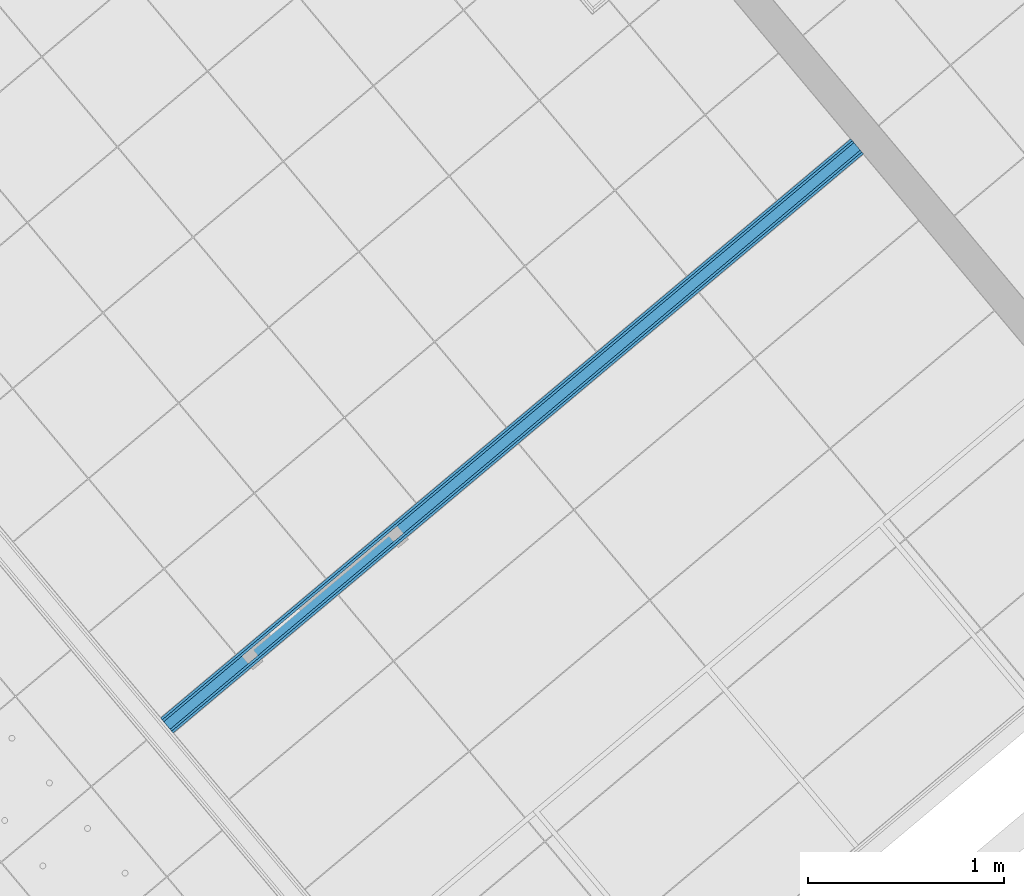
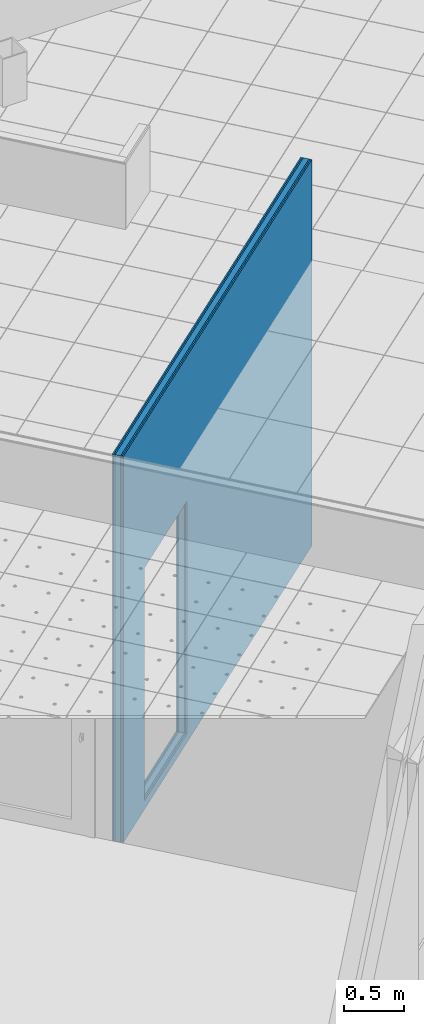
# One storey, part 21 of 321: 5 building element parts, 1 opening, 1 element without a shape of its own.
"""IFC2X3 building model written with IfcOpenShell, lengths in millimetres."""

from ifc_helpers import new_model, entity, si_unit, converted_unit, derived_unit, money_unit, direction, frame, origin_with_axes, place, context, subcontext, project, spatial, faceted_brep, material, type_object, element, aggregate, save


model = new_model("IFC2X3")

# Units and contexts
model_context = context("Model", 3, precision=0.01, world=origin_with_axes(), true_north=direction((0.0, 1.0)))
plan_context = context("Plan", 3, precision=0.01, world=origin_with_axes(), true_north=direction((0.0, 1.0)))
body_context = subcontext(model_context, "Body", "Model", "MODEL_VIEW")
ifc_project = project(units=[si_unit("LENGTHUNIT", "METRE", prefix="MILLI"), si_unit("AREAUNIT", "SQUARE_METRE"), si_unit("VOLUMEUNIT", "CUBIC_METRE"), converted_unit("PLANEANGLEUNIT", "DEGREE", entity("IfcPlaneAngleMeasure", 0.0174532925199), si_unit("PLANEANGLEUNIT", "RADIAN"), dimensions=[0, 0, 0, 0, 0, 0, 0]), money_unit("EUR"), converted_unit("TIMEUNIT", "Year", entity("IfcTimeMeasure", 31556926.0), si_unit("TIMEUNIT", "SECOND"), dimensions=[0, 0, 1, 0, 0, 0, 0]), si_unit("MASSUNIT", "GRAM", prefix="KILO"), si_unit("THERMODYNAMICTEMPERATUREUNIT", "DEGREE_CELSIUS"), si_unit("LUMINOUSINTENSITYUNIT", "LUMEN"), si_unit("ENERGYUNIT", "JOULE", prefix="MEGA"), derived_unit("THERMALCONDUCTANCEUNIT", [(si_unit("POWERUNIT", "WATT"), 1), (si_unit("LENGTHUNIT", "METRE"), -1), (si_unit("THERMODYNAMICTEMPERATUREUNIT", "KELVIN"), -1)]), derived_unit("SPECIFICHEATCAPACITYUNIT", [(si_unit("ENERGYUNIT", "JOULE"), 1), (si_unit("MASSUNIT", "GRAM", prefix="KILO"), -1), (si_unit("THERMODYNAMICTEMPERATUREUNIT", "KELVIN"), -1)]), derived_unit("MASSDENSITYUNIT", [(si_unit("MASSUNIT", "GRAM", prefix="KILO"), 1), (si_unit("VOLUMEUNIT", "CUBIC_METRE"), -1)])], contexts=[model_context, plan_context])

# Site, building, storey
site_placement = place(None, origin_with_axes())
site = spatial("IfcSite", under=ifc_project, at=site_placement, Name="Fortuinstraat Woensdrecht", CompositionType="ELEMENT")
building_placement = place(site_placement, origin_with_axes())
building = spatial("IfcBuilding", under=site, at=building_placement, Name="IKC Fortuna", CompositionType="ELEMENT")
storey_placement = place(building_placement, frame((0.0, 0.0, 4000.0), z_axis=(0.0, 0.0, 1.0), x_axis=(1.0, 0.0, 0.0)))
storey = spatial("IfcBuildingStorey", under=building, at=storey_placement, Name="01 eerste verdieping", CompositionType="ELEMENT", Elevation=4000.0)

# Wall, opening, building element parts
wall_type = type_object("IfcWallType", Name="MS100 2.50.2A 100", PredefinedType="NOTDEFINED")
wall_placement = place(storey_placement, frame((22275.8630568, -5825.1051172, 1360.0), z_axis=(0.0, 0.0, 1.0), x_axis=(0.766044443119, 0.642787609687, 0.0)))
wall = element("IfcWall", 1, at=wall_placement, inside=storey, type_object=wall_type, Name="22_Wand_Binnenwand")
opening_placement = place(wall_placement, frame((1098.80610878, 0.0, 90.0), z_axis=(0.0, 0.0, 1.0), x_axis=(1.0, 0.0, 0.0)))
element("IfcOpeningElement", 2, at=opening_placement, cuts=wall, Name="32_Deur_h.01d", context=body_context, shape_type="Brep", body=[
    faceted_brep([(517.0, -100.0, 2367.0), (517.0, -100.0, 0.0), (517.0, 200.0, 0.0), (517.0, 200.0, 2367.0), (-517.0, -100.0, 2367.0), (-517.0, -100.0, 0.0), (-517.0, 200.0, 0.0), (-517.0, 200.0, 2367.0)], [[[0, 1, 2, 3]], [[0, 4, 5, 1]], [[1, 5, 6, 2]], [[3, 2, 6, 7]], [[4, 0, 3, 7]], [[5, 4, 7, 6]]]),
])
ifc_material_1 = material(Name="Gipsplaat")
building_element_part_1_placement = place(wall_placement, origin_with_axes())
building_element_part_1 = element("IfcBuildingElementPart", 3, at=building_element_part_1_placement, material=ifc_material_1, Name="Gipsplaat", context=body_context, shape_type="Brep", body=[
    faceted_brep([(4655.01170342, 50.0, 0.0), (62.5, 50.0, 0.0), (62.5, 50.0, 3930.0), (4655.01170342, 50.0, 3930.0), (581.806108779, 50.0, 90.0), (1615.80610878, 50.0, 90.0), (1615.80610878, 50.0, 2457.0), (581.806108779, 50.0, 2457.0), (4655.01170342, 37.5, 0.0), (62.5, 37.5, 0.0), (62.5, 37.5, 3930.0), (4655.01170342, 37.5, 3930.0), (581.806108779, 37.5, 90.0), (1615.80610878, 37.5, 90.0), (1615.80610878, 37.5, 2457.0), (581.806108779, 37.5, 2457.0)], [[[0, 1, 2, 3], [4, 5, 6, 7]], [[8, 9, 1, 0]], [[2, 1, 9, 10]], [[3, 2, 10, 11]], [[8, 0, 3, 11]], [[12, 13, 5, 4]], [[13, 14, 6, 5]], [[14, 15, 7, 6]], [[15, 12, 4, 7]], [[11, 10, 9, 8], [12, 15, 14, 13]]]),
])
building_element_part_2_placement = place(wall_placement, origin_with_axes())
building_element_part_2 = element("IfcBuildingElementPart", 4, at=building_element_part_2_placement, material=ifc_material_1, Name="Gipsplaat", context=body_context, shape_type="Brep", body=[
    faceted_brep([(4655.01170342, 37.5, 0.0), (62.5, 37.5, 0.0), (62.5, 37.5, 3930.0), (4655.01170342, 37.5, 3930.0), (581.806108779, 37.5, 90.0), (1615.80610878, 37.5, 90.0), (1615.80610878, 37.5, 2457.0), (581.806108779, 37.5, 2457.0), (4655.01170342, 25.0, 0.0), (62.5, 25.0, 0.0), (62.5, 25.0, 3930.0), (4655.01170342, 25.0, 3930.0), (581.806108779, 25.0, 90.0), (1615.80610878, 25.0, 90.0), (1615.80610878, 25.0, 2457.0), (581.806108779, 25.0, 2457.0)], [[[0, 1, 2, 3], [4, 5, 6, 7]], [[8, 9, 1, 0]], [[2, 1, 9, 10]], [[3, 2, 10, 11]], [[8, 0, 3, 11]], [[12, 13, 5, 4]], [[13, 14, 6, 5]], [[14, 15, 7, 6]], [[15, 12, 4, 7]], [[11, 10, 9, 8], [12, 15, 14, 13]]]),
])
ifc_material_2 = material(Name="Isolatie - Steenwol LSW")
building_element_part_3_placement = place(wall_placement, origin_with_axes())
building_element_part_3 = element("IfcBuildingElementPart", 5, at=building_element_part_3_placement, material=ifc_material_2, Name="Isolatie - Steenwol LSW", context=body_context, shape_type="Brep", body=[
    faceted_brep([(4655.01170342, 25.0, 0.0), (62.5, 25.0, 0.0), (62.5, 25.0, 3930.0), (4655.01170342, 25.0, 3930.0), (581.806108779, 25.0, 90.0), (1615.80610878, 25.0, 90.0), (1615.80610878, 25.0, 2457.0), (581.806108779, 25.0, 2457.0), (4655.01170342, -25.0, 0.0), (62.5, -25.0, 0.0), (62.5, -25.0, 3930.0), (4655.01170342, -25.0, 3930.0), (581.806108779, -25.0, 90.0), (1615.80610878, -25.0, 90.0), (1615.80610878, -25.0, 2457.0), (581.806108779, -25.0, 2457.0)], [[[0, 1, 2, 3], [4, 5, 6, 7]], [[8, 9, 1, 0]], [[2, 1, 9, 10]], [[3, 2, 10, 11]], [[8, 0, 3, 11]], [[12, 13, 5, 4]], [[13, 14, 6, 5]], [[14, 15, 7, 6]], [[15, 12, 4, 7]], [[11, 10, 9, 8], [12, 15, 14, 13]]]),
])
building_element_part_4_placement = place(wall_placement, origin_with_axes())
building_element_part_4 = element("IfcBuildingElementPart", 6, at=building_element_part_4_placement, material=ifc_material_1, Name="Gipsplaat", context=body_context, shape_type="Brep", body=[
    faceted_brep([(4655.01170342, -25.0, 0.0), (62.5, -25.0, 0.0), (62.5, -25.0, 3930.0), (4655.01170342, -25.0, 3930.0), (581.806108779, -25.0, 90.0), (1615.80610878, -25.0, 90.0), (1615.80610878, -25.0, 2457.0), (581.806108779, -25.0, 2457.0), (4655.01170342, -37.5, 0.0), (62.5, -37.5, 0.0), (62.5, -37.5, 3930.0), (4655.01170342, -37.5, 3930.0), (581.806108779, -37.5, 90.0), (1615.80610878, -37.5, 90.0), (1615.80610878, -37.5, 2457.0), (581.806108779, -37.5, 2457.0)], [[[0, 1, 2, 3], [4, 5, 6, 7]], [[8, 9, 1, 0]], [[2, 1, 9, 10]], [[3, 2, 10, 11]], [[8, 0, 3, 11]], [[12, 13, 5, 4]], [[13, 14, 6, 5]], [[14, 15, 7, 6]], [[15, 12, 4, 7]], [[11, 10, 9, 8], [12, 15, 14, 13]]]),
])
building_element_part_5_placement = place(wall_placement, origin_with_axes())
building_element_part_5 = element("IfcBuildingElementPart", 7, at=building_element_part_5_placement, material=ifc_material_1, Name="Gipsplaat", context=body_context, shape_type="Brep", body=[
    faceted_brep([(4655.01170342, -37.5, 0.0), (62.5, -37.5, 0.0), (62.5, -37.5, 3930.0), (4655.01170342, -37.5, 3930.0), (581.806108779, -37.5, 90.0), (1615.80610878, -37.5, 90.0), (1615.80610878, -37.5, 2457.0), (581.806108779, -37.5, 2457.0), (4655.01170342, -50.0, 0.0), (62.5, -50.0, 0.0), (62.5, -50.0, 3930.0), (4655.01170342, -50.0, 3930.0), (581.806108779, -50.0, 90.0), (1615.80610878, -50.0, 90.0), (1615.80610878, -50.0, 2457.0), (581.806108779, -50.0, 2457.0)], [[[0, 1, 2, 3], [4, 5, 6, 7]], [[8, 9, 1, 0]], [[2, 1, 9, 10]], [[3, 2, 10, 11]], [[8, 0, 3, 11]], [[12, 13, 5, 4]], [[13, 14, 6, 5]], [[14, 15, 7, 6]], [[15, 12, 4, 7]], [[11, 10, 9, 8], [12, 15, 14, 13]]]),
])
aggregate(wall, [building_element_part_1, building_element_part_2, building_element_part_3, building_element_part_4, building_element_part_5])

save(model, "model.ifc")
